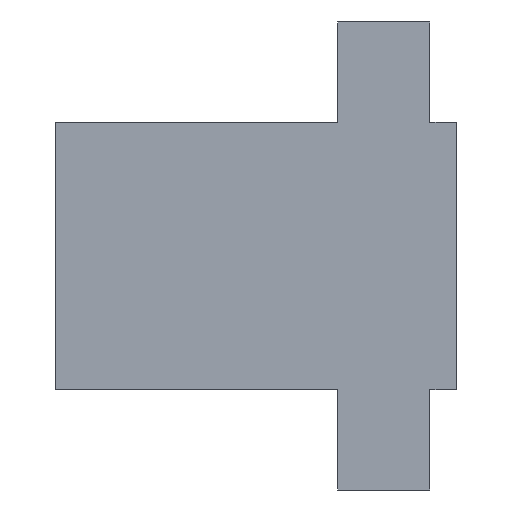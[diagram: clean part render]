
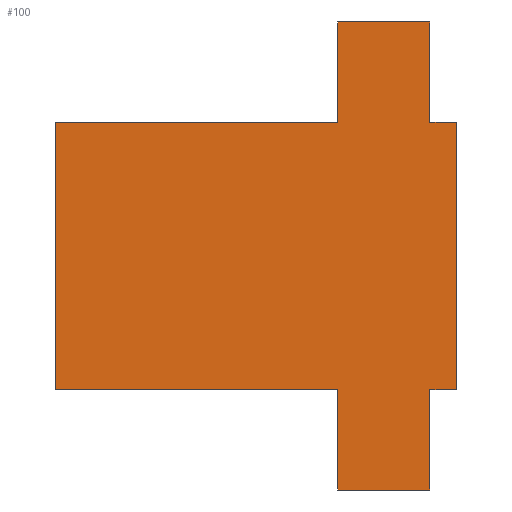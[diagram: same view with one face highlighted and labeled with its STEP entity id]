
A CAD part, left-side view. The second image highlights one B-rep face of the part: STEP entity #100.
In plain terms, the highlighted planar face has unit normal (-1, 0, 0).
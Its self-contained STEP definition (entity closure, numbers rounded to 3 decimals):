
#100 = ADVANCED_FACE( '', ( #155 ), #156, .T. );
#155 = FACE_OUTER_BOUND( '', #213, .T. );
#156 = PLANE( '', #214 );
#213 = EDGE_LOOP( '', ( #417, #418, #419, #420, #421, #422, #423, #424, #425, #426, #427, #428 ) );
#214 = AXIS2_PLACEMENT_3D( '', #429, #430, #431 );
#417 = ORIENTED_EDGE( '', *, *, #508, .F. );
#418 = ORIENTED_EDGE( '', *, *, #518, .F. );
#419 = ORIENTED_EDGE( '', *, *, #512, .T. );
#420 = ORIENTED_EDGE( '', *, *, #489, .T. );
#421 = ORIENTED_EDGE( '', *, *, #502, .F. );
#422 = ORIENTED_EDGE( '', *, *, #500, .T. );
#423 = ORIENTED_EDGE( '', *, *, #517, .T. );
#424 = ORIENTED_EDGE( '', *, *, #519, .T. );
#425 = ORIENTED_EDGE( '', *, *, #509, .F. );
#426 = ORIENTED_EDGE( '', *, *, #496, .T. );
#427 = ORIENTED_EDGE( '', *, *, #503, .T. );
#428 = ORIENTED_EDGE( '', *, *, #493, .T. );
#429 = CARTESIAN_POINT( '', ( -4., 0., -10. ) );
#430 = DIRECTION( '', ( -1., 0., 0. ) );
#431 = DIRECTION( '', ( 0., 0., -1. ) );
#489 = EDGE_CURVE( '', #590, #588, #591, .T. );
#493 = EDGE_CURVE( '', #598, #596, #599, .T. );
#496 = EDGE_CURVE( '', #603, #601, #604, .T. );
#500 = EDGE_CURVE( '', #611, #609, #612, .T. );
#502 = EDGE_CURVE( '', #611, #588, #614, .T. );
#503 = EDGE_CURVE( '', #601, #598, #615, .T. );
#508 = EDGE_CURVE( '', #621, #596, #623, .T. );
#509 = EDGE_CURVE( '', #603, #624, #625, .T. );
#512 = EDGE_CURVE( '', #629, #590, #630, .T. );
#517 = EDGE_CURVE( '', #609, #635, #637, .T. );
#518 = EDGE_CURVE( '', #629, #621, #638, .T. );
#519 = EDGE_CURVE( '', #635, #624, #639, .T. );
#588 = VERTEX_POINT( '', #740 );
#590 = VERTEX_POINT( '', #743 );
#591 = LINE( '', #744, #745 );
#596 = VERTEX_POINT( '', #752 );
#598 = VERTEX_POINT( '', #755 );
#599 = LINE( '', #756, #757 );
#601 = VERTEX_POINT( '', #760 );
#603 = VERTEX_POINT( '', #763 );
#604 = LINE( '', #764, #765 );
#609 = VERTEX_POINT( '', #772 );
#611 = VERTEX_POINT( '', #775 );
#612 = LINE( '', #776, #777 );
#614 = LINE( '', #780, #781 );
#615 = LINE( '', #782, #783 );
#621 = VERTEX_POINT( '', #792 );
#623 = LINE( '', #795, #796 );
#624 = VERTEX_POINT( '', #797 );
#625 = LINE( '', #798, #799 );
#629 = VERTEX_POINT( '', #805 );
#630 = LINE( '', #806, #807 );
#635 = VERTEX_POINT( '', #815 );
#637 = LINE( '', #818, #819 );
#638 = LINE( '', #820, #821 );
#639 = LINE( '', #822, #823 );
#740 = CARTESIAN_POINT( '', ( -4., -21.1, -17.5 ) );
#743 = CARTESIAN_POINT( '', ( -4., -21.1, -10. ) );
#744 = CARTESIAN_POINT( '', ( -4., -21.1, -17.5 ) );
#745 = VECTOR( '', #881, 1. );
#752 = CARTESIAN_POINT( '', ( -4., -21.1, 10. ) );
#755 = CARTESIAN_POINT( '', ( -4., -21.1, 17.5 ) );
#756 = CARTESIAN_POINT( '', ( -4., -21.1, -17.5 ) );
#757 = VECTOR( '', #885, 1. );
#760 = CARTESIAN_POINT( '', ( -4., -28., 17.5 ) );
#763 = CARTESIAN_POINT( '', ( -4., -28., 10. ) );
#764 = CARTESIAN_POINT( '', ( -4., -28., -17.5 ) );
#765 = VECTOR( '', #888, 1. );
#772 = CARTESIAN_POINT( '', ( -4., -28., -10. ) );
#775 = CARTESIAN_POINT( '', ( -4., -28., -17.5 ) );
#776 = CARTESIAN_POINT( '', ( -4., -28., -17.5 ) );
#777 = VECTOR( '', #892, 1. );
#780 = CARTESIAN_POINT( '', ( -4., -28., -17.5 ) );
#781 = VECTOR( '', #894, 1. );
#782 = CARTESIAN_POINT( '', ( -4., -28., 17.5 ) );
#783 = VECTOR( '', #895, 1. );
#792 = CARTESIAN_POINT( '', ( -4., 0., 10. ) );
#795 = CARTESIAN_POINT( '', ( -4., 0., 10. ) );
#796 = VECTOR( '', #900, 1. );
#797 = CARTESIAN_POINT( '', ( -4., -30., 10. ) );
#798 = CARTESIAN_POINT( '', ( -4., 0., 10. ) );
#799 = VECTOR( '', #901, 1. );
#805 = CARTESIAN_POINT( '', ( -4., 0., -10. ) );
#806 = CARTESIAN_POINT( '', ( -4., 0., -10. ) );
#807 = VECTOR( '', #904, 1. );
#815 = CARTESIAN_POINT( '', ( -4., -30., -10. ) );
#818 = CARTESIAN_POINT( '', ( -4., 0., -10. ) );
#819 = VECTOR( '', #909, 1. );
#820 = CARTESIAN_POINT( '', ( -4., 0., -10. ) );
#821 = VECTOR( '', #910, 1. );
#822 = CARTESIAN_POINT( '', ( -4., -30., -10. ) );
#823 = VECTOR( '', #911, 1. );
#881 = DIRECTION( '', ( 0., 0., -1. ) );
#885 = DIRECTION( '', ( 0., 0., -1. ) );
#888 = DIRECTION( '', ( 0., 0., 1. ) );
#892 = DIRECTION( '', ( 0., 0., 1. ) );
#894 = DIRECTION( '', ( 0., 1., 0. ) );
#895 = DIRECTION( '', ( 0., 1., 0. ) );
#900 = DIRECTION( '', ( 0., -1., 0. ) );
#901 = DIRECTION( '', ( 0., -1., 0. ) );
#904 = DIRECTION( '', ( 0., -1., 0. ) );
#909 = DIRECTION( '', ( 0., -1., 0. ) );
#910 = DIRECTION( '', ( 0., 0., 1. ) );
#911 = DIRECTION( '', ( 0., 0., 1. ) );
